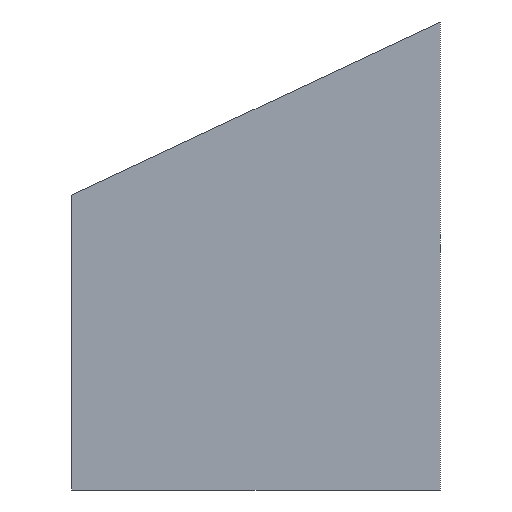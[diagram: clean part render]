
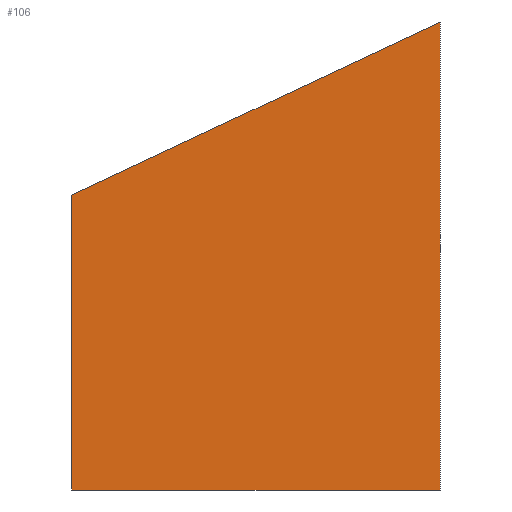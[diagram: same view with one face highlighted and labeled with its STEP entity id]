
A CAD part, left-side view. The second image highlights one B-rep face of the part: STEP entity #106.
In plain terms, the highlighted planar face has unit normal (-1, 0, 0).
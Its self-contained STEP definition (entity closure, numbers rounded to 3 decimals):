
#20=FACE_OUTER_BOUND('',#26,.T.);
#26=EDGE_LOOP('',(#91,#92,#93,#94));
#29=LINE('',#161,#41);
#32=LINE('',#167,#44);
#35=LINE('',#173,#47);
#38=LINE('',#177,#50);
#41=VECTOR('',#133,10.);
#44=VECTOR('',#138,10.);
#47=VECTOR('',#143,10.);
#50=VECTOR('',#148,10.);
#53=VERTEX_POINT('',#158);
#54=VERTEX_POINT('',#160);
#56=VERTEX_POINT('',#166);
#58=VERTEX_POINT('',#172);
#61=EDGE_CURVE('',#54,#53,#29,.T.);
#64=EDGE_CURVE('',#56,#54,#32,.T.);
#67=EDGE_CURVE('',#58,#56,#35,.T.);
#70=EDGE_CURVE('',#53,#58,#38,.T.);
#91=ORIENTED_EDGE('',*,*,#70,.T.);
#92=ORIENTED_EDGE('',*,*,#67,.T.);
#93=ORIENTED_EDGE('',*,*,#64,.T.);
#94=ORIENTED_EDGE('',*,*,#61,.T.);
#100=PLANE('',#126);
#106=ADVANCED_FACE('',(#20),#100,.T.);
#126=AXIS2_PLACEMENT_3D('',#179,#151,#152);
#133=DIRECTION('',(0.,-1.,0.));
#138=DIRECTION('',(0.,0.,-1.));
#143=DIRECTION('',(0.,0.905,-0.425));
#148=DIRECTION('',(0.,0.,1.));
#151=DIRECTION('center_axis',(-1.,0.,0.));
#152=DIRECTION('ref_axis',(0.,0.,1.));
#158=CARTESIAN_POINT('',(-3.,-115.485,-63.963));
#160=CARTESIAN_POINT('',(-3.,84.515,-63.963));
#161=CARTESIAN_POINT('',(-3.,84.515,-63.963));
#166=CARTESIAN_POINT('',(-3.,84.515,96.037));
#167=CARTESIAN_POINT('',(-3.,84.515,96.037));
#172=CARTESIAN_POINT('',(-3.,-115.485,189.995));
#173=CARTESIAN_POINT('',(-3.,-115.485,189.995));
#177=CARTESIAN_POINT('',(-3.,-115.485,-63.963));
#179=CARTESIAN_POINT('Origin',(-3.,-15.485,63.016));
